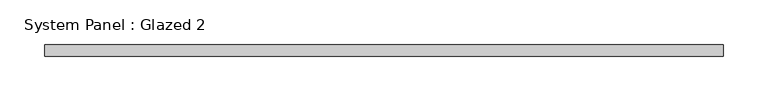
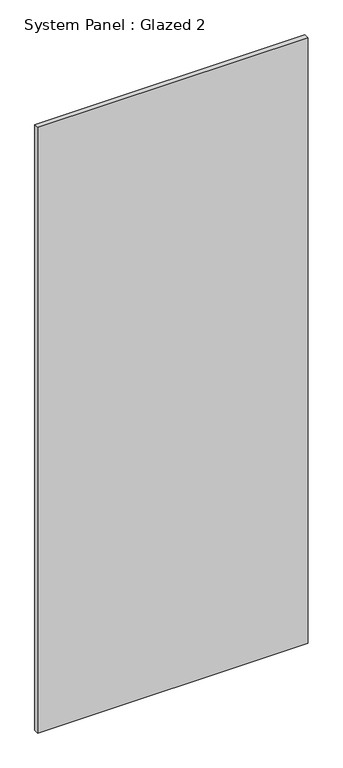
"""IFC4 building model written with IfcOpenShell, lengths in millimetres: plate geometry, System Panel : Glazed 2."""

from ifc_helpers import new_model, si_unit, origin, origin_with_axes, place, context, project, spatial, polyline, outline, extrude, source, transform, mapped, element, save


def system_panel_glazed_2_9149ad4c(model_context):
    return source(origin(), model_context, "Body", "SweptSolid", [
        extrude(outline(polyline([(377.5, -6.35), (-377.5, -6.35), (-377.5, 6.35), (377.5, 6.35), (377.5, -6.35)])), origin_with_axes(), (0.0, 0.0, 1.0), 1787.5831198),
    ])


if __name__ == "__main__":
    model = new_model("IFC4")
    model_context = context("Model", 3, world=origin())
    ifc_project = project(units=[si_unit("LENGTHUNIT", "METRE", prefix="MILLI")], contexts=[model_context])
    site = spatial("IfcSite", under=ifc_project)
    building = spatial("IfcBuilding", under=site)
    placement = place(None, origin())
    system_panel_glazed_2_shape = system_panel_glazed_2_9149ad4c(model_context)
    element("IfcPlate", 1, ObjectType="System Panel : Glazed 2", at=placement, inside=building, context=model_context, shape_type="MappedRepresentation", body=[
        mapped(system_panel_glazed_2_shape, transform((0.0, 0.0, 0.0), x_axis=(1.0, 0.0, 0.0), y_axis=(0.0, 1.0, 0.0), z_axis=(0.0, 0.0, 1.0))),
    ])
    save(model, "model.ifc")
